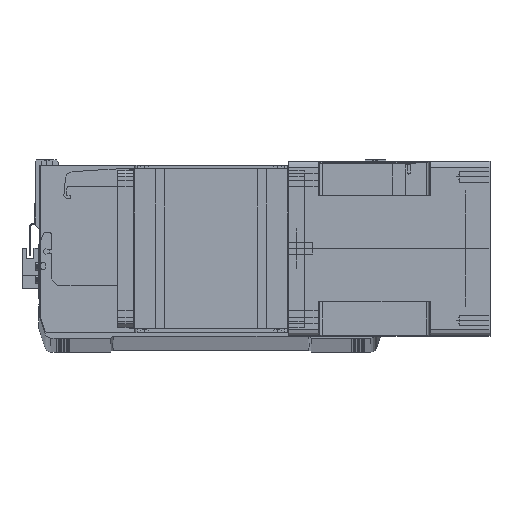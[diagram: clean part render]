
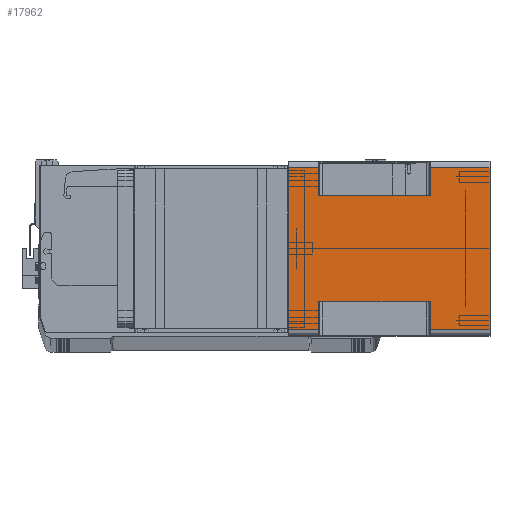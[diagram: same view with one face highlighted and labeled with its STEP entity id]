
A CAD part, top view. The second image highlights one B-rep face of the part: STEP entity #17962.
In plain terms, the highlighted planar face has unit normal (0, 0, 1) as drawn and (1, 0, 0) by its records, which use the part's own axes.
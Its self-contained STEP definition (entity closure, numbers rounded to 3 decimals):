
#927 = LINE ( 'NONE', #38466, #40380 ) ;
#1239 = LINE ( 'NONE', #12322, #16950 ) ;
#2462 = AXIS2_PLACEMENT_3D ( 'NONE', #20720, #40776, #20575 ) ;
#3573 = ORIENTED_EDGE ( 'NONE', *, *, #32848, .T. ) ;
#3614 = VERTEX_POINT ( 'NONE', #37785 ) ;
#3699 = ORIENTED_EDGE ( 'NONE', *, *, #6298, .F. ) ;
#4035 = VECTOR ( 'NONE', #33748, 1000. ) ;
#4096 = EDGE_LOOP ( 'NONE', ( #27524, #38226, #25122, #3573, #40694, #23406, #16473, #7538, #10286, #3699, #4321, #7327 ) ) ;
#4321 = ORIENTED_EDGE ( 'NONE', *, *, #31720, .F. ) ;
#4415 = CARTESIAN_POINT ( 'NONE',  ( 71., -43., -24.5 ) ) ;
#5859 = EDGE_CURVE ( 'NONE', #40653, #34593, #27280, .T. ) ;
#6182 = VERTEX_POINT ( 'NONE', #34301 ) ;
#6298 = EDGE_CURVE ( 'NONE', #22437, #16527, #21927, .T. ) ;
#7154 = LINE ( 'NONE', #39666, #4035 ) ;
#7327 = ORIENTED_EDGE ( 'NONE', *, *, #22325, .T. ) ;
#7538 = ORIENTED_EDGE ( 'NONE', *, *, #19203, .T. ) ;
#8777 = DIRECTION ( 'NONE',  ( 0., 0., -1. ) ) ;
#9345 = VECTOR ( 'NONE', #17647, 1000. ) ;
#9797 = LINE ( 'NONE', #36247, #26659 ) ;
#10286 = ORIENTED_EDGE ( 'NONE', *, *, #31844, .T. ) ;
#10630 = CARTESIAN_POINT ( 'NONE',  ( 71., 66., -164. ) ) ;
#10714 = VECTOR ( 'NONE', #40952, 1000. ) ;
#10908 = PLANE ( 'NONE',  #2462 ) ;
#11190 = CARTESIAN_POINT ( 'NONE',  ( 71., -66., 0. ) ) ;
#11527 = CARTESIAN_POINT ( 'NONE',  ( 71., 66., -164. ) ) ;
#11617 = CARTESIAN_POINT ( 'NONE',  ( 71., -43., -115.5 ) ) ;
#11622 = CARTESIAN_POINT ( 'NONE',  ( 71., 43., -115.5 ) ) ;
#12322 = CARTESIAN_POINT ( 'NONE',  ( 71., 43., -164. ) ) ;
#12735 = VERTEX_POINT ( 'NONE', #33639 ) ;
#12992 = LINE ( 'NONE', #33678, #30940 ) ;
#16473 = ORIENTED_EDGE ( 'NONE', *, *, #23179, .F. ) ;
#16527 = VERTEX_POINT ( 'NONE', #24038 ) ;
#16950 = VECTOR ( 'NONE', #8777, 1000. ) ;
#17562 = CARTESIAN_POINT ( 'NONE',  ( 71., 43., -24.5 ) ) ;
#17647 = DIRECTION ( 'NONE',  ( 0., 0., 1. ) ) ;
#17962 = ADVANCED_FACE ( 'NONE', ( #42560 ), #10908, .T. ) ;
#18076 = LINE ( 'NONE', #10630, #10714 ) ;
#18296 = LINE ( 'NONE', #25904, #20408 ) ;
#18533 = VERTEX_POINT ( 'NONE', #17562 ) ;
#18751 = VECTOR ( 'NONE', #31636, 1000. ) ;
#19203 = EDGE_CURVE ( 'NONE', #18533, #12735, #9797, .T. ) ;
#19866 = EDGE_CURVE ( 'NONE', #22624, #37458, #18076, .T. ) ;
#20060 = CARTESIAN_POINT ( 'NONE',  ( 71., -66., -164. ) ) ;
#20408 = VECTOR ( 'NONE', #36241, 1000. ) ;
#20493 = DIRECTION ( 'NONE',  ( 0., 0., 1. ) ) ;
#20575 = DIRECTION ( 'NONE',  ( 0., 1., 0. ) ) ;
#20720 = CARTESIAN_POINT ( 'NONE',  ( 71., -66., -164. ) ) ;
#20955 = VECTOR ( 'NONE', #20493, 1000. ) ;
#21927 = LINE ( 'NONE', #11190, #18751 ) ;
#22325 = EDGE_CURVE ( 'NONE', #6182, #34593, #7154, .T. ) ;
#22437 = VERTEX_POINT ( 'NONE', #41377 ) ;
#22624 = VERTEX_POINT ( 'NONE', #11527 ) ;
#23035 = DIRECTION ( 'NONE',  ( 0., -1., 0. ) ) ;
#23179 = EDGE_CURVE ( 'NONE', #18533, #29053, #1239, .T. ) ;
#23406 = ORIENTED_EDGE ( 'NONE', *, *, #30882, .T. ) ;
#24038 = CARTESIAN_POINT ( 'NONE',  ( 71., 66., 0. ) ) ;
#25066 = DIRECTION ( 'NONE',  ( 0., 0., 1. ) ) ;
#25122 = ORIENTED_EDGE ( 'NONE', *, *, #35948, .F. ) ;
#25904 = CARTESIAN_POINT ( 'NONE',  ( 71., 43., -115.5 ) ) ;
#26403 = CARTESIAN_POINT ( 'NONE',  ( 71., -66., -164. ) ) ;
#26659 = VECTOR ( 'NONE', #33585, 1000. ) ;
#27280 = LINE ( 'NONE', #31992, #9345 ) ;
#27524 = ORIENTED_EDGE ( 'NONE', *, *, #5859, .F. ) ;
#29053 = VERTEX_POINT ( 'NONE', #11622 ) ;
#29533 = VERTEX_POINT ( 'NONE', #26403 ) ;
#30476 = VECTOR ( 'NONE', #23035, 1000. ) ;
#30882 = EDGE_CURVE ( 'NONE', #37458, #29053, #18296, .T. ) ;
#30940 = VECTOR ( 'NONE', #36906, 1000. ) ;
#31636 = DIRECTION ( 'NONE',  ( 0., 1., 0. ) ) ;
#31720 = EDGE_CURVE ( 'NONE', #6182, #22437, #12992, .T. ) ;
#31844 = EDGE_CURVE ( 'NONE', #12735, #16527, #927, .T. ) ;
#31992 = CARTESIAN_POINT ( 'NONE',  ( 71., -43., -164. ) ) ;
#32589 = LINE ( 'NONE', #20060, #20955 ) ;
#32848 = EDGE_CURVE ( 'NONE', #29533, #22624, #33504, .T. ) ;
#33504 = LINE ( 'NONE', #35065, #37155 ) ;
#33585 = DIRECTION ( 'NONE',  ( 0., 1., 0. ) ) ;
#33639 = CARTESIAN_POINT ( 'NONE',  ( 71., 66., -24.5 ) ) ;
#33649 = LINE ( 'NONE', #43158, #30476 ) ;
#33678 = CARTESIAN_POINT ( 'NONE',  ( 71., -66., -164. ) ) ;
#33748 = DIRECTION ( 'NONE',  ( 0., 1., 0. ) ) ;
#34301 = CARTESIAN_POINT ( 'NONE',  ( 71., -66., -24.5 ) ) ;
#34593 = VERTEX_POINT ( 'NONE', #4415 ) ;
#35065 = CARTESIAN_POINT ( 'NONE',  ( 71., -66., -164. ) ) ;
#35790 = EDGE_CURVE ( 'NONE', #40653, #3614, #33649, .T. ) ;
#35948 = EDGE_CURVE ( 'NONE', #29533, #3614, #32589, .T. ) ;
#36241 = DIRECTION ( 'NONE',  ( 0., -1., 0. ) ) ;
#36247 = CARTESIAN_POINT ( 'NONE',  ( 71., -66., -24.5 ) ) ;
#36906 = DIRECTION ( 'NONE',  ( 0., 0., 1. ) ) ;
#37155 = VECTOR ( 'NONE', #42065, 1000. ) ;
#37261 = CARTESIAN_POINT ( 'NONE',  ( 71., 66., -115.5 ) ) ;
#37458 = VERTEX_POINT ( 'NONE', #37261 ) ;
#37785 = CARTESIAN_POINT ( 'NONE',  ( 71., -66., -115.5 ) ) ;
#38226 = ORIENTED_EDGE ( 'NONE', *, *, #35790, .T. ) ;
#38466 = CARTESIAN_POINT ( 'NONE',  ( 71., 66., -164. ) ) ;
#39666 = CARTESIAN_POINT ( 'NONE',  ( 71., -43., -24.5 ) ) ;
#40380 = VECTOR ( 'NONE', #25066, 1000. ) ;
#40653 = VERTEX_POINT ( 'NONE', #11617 ) ;
#40694 = ORIENTED_EDGE ( 'NONE', *, *, #19866, .T. ) ;
#40776 = DIRECTION ( 'NONE',  ( 1., 0., 0. ) ) ;
#40952 = DIRECTION ( 'NONE',  ( 0., 0., 1. ) ) ;
#41377 = CARTESIAN_POINT ( 'NONE',  ( 71., -66., 0. ) ) ;
#42065 = DIRECTION ( 'NONE',  ( 0., 1., 0. ) ) ;
#42560 = FACE_OUTER_BOUND ( 'NONE', #4096, .T. ) ;
#43158 = CARTESIAN_POINT ( 'NONE',  ( 71., -66., -115.5 ) ) ;
